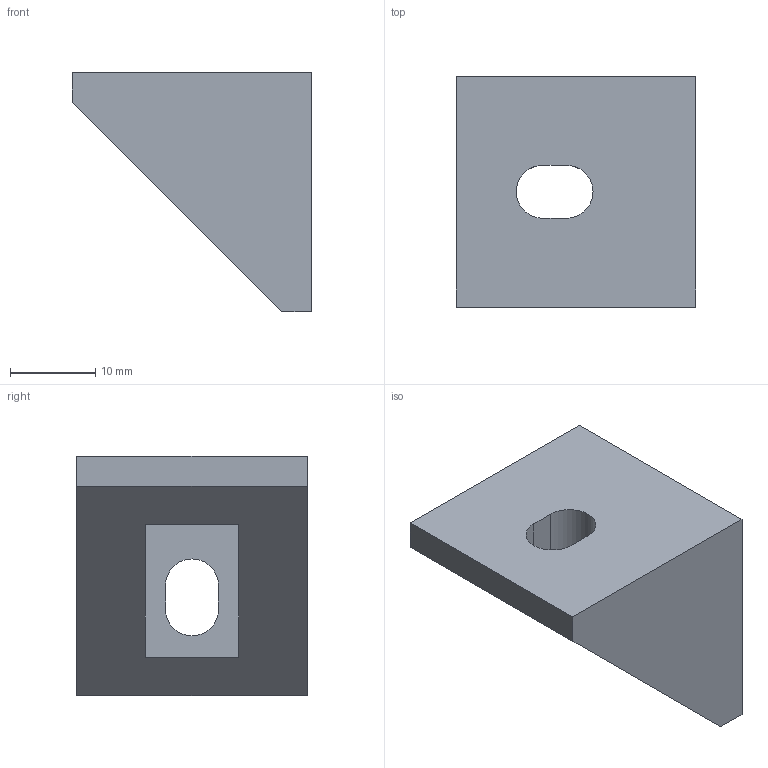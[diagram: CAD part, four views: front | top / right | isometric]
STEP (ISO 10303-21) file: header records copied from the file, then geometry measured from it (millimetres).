
FILE_DESCRIPTION((''),'2;1');
FILE_NAME('SQ028027','2002-12-27T',('Lipro doo'),('Lipro d.o.o.'),'PRO/ENGINEER BY PARAMETRIC TECHNOLOGY CORPORATION, 2001150','PRO/ENGINEER BY PARAMETRIC TECHNOLOGY CORPORATION, 2001150','');
FILE_SCHEMA(('CONFIG_CONTROL_DESIGN'));
Length unit declared in the file: millimetre
Products named in the file (1): SQ028027
Bounding box: 28 x 27 x 28 mm (x, y, z)
Volume: 10982.4 mm3; surface area: 4155.4 mm2
Topology: 1 solids, 1 shells, 19 faces, 48 edges, 32 vertices
Faces by surface type: plane 15, cylinder 4
Entity records: 616 total; most frequent: CARTESIAN_POINT 99, ORIENTED_EDGE 96, DIRECTION 94, EDGE_CURVE 48, VECTOR 40, LINE 40, VERTEX_POINT 32, AXIS2_PLACEMENT_3D 27
